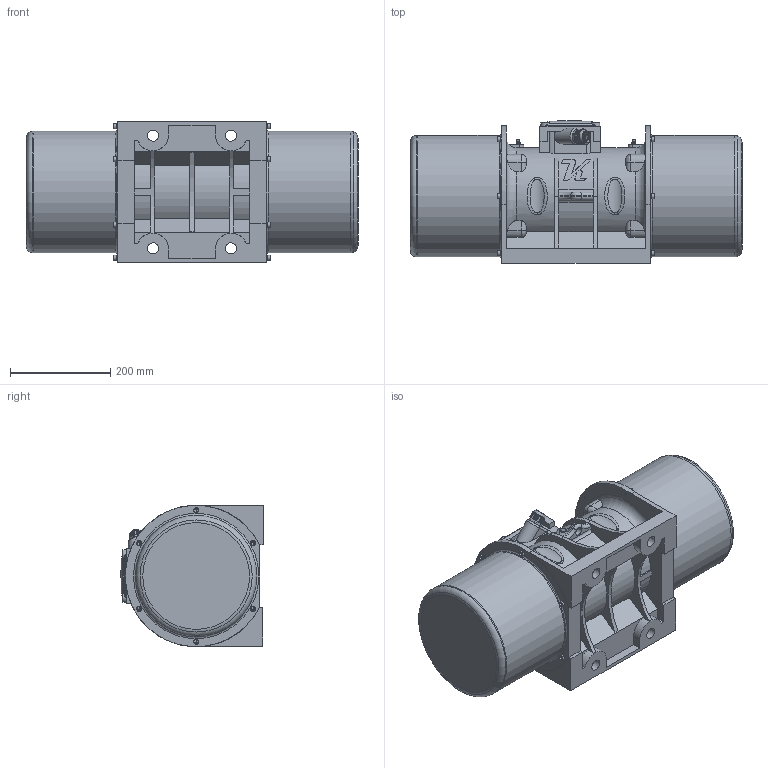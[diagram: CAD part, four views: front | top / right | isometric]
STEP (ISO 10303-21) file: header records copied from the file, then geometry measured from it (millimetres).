
FILE_DESCRIPTION(/* description */ (''),/* implementation_level */ '2;1');
FILE_NAME(/* name */ '',/* time_stamp */ '2026-09-02T09:55:13+03:00',/* author */ ('PC'),/* organization */ (''),/* preprocessor_version */ 'ST-DEVELOPER v20.1',/* originating_system */ 'Autodesk Inventor 2026',/* authorisation */ '');
FILE_SCHEMA (('AUTOMOTIVE_DESIGN { 1 0 10303 214 3 1 1 }'));
Products named in the file (1): 6 NO 1000 DEVİR
Bounding box: 662 x 284.47 x 281.65 mm (x, y, z)
Volume: 28371022.9 mm3; surface area: 912650 mm2
Topology: 1 solids, 40 shells, 1586 faces, 4292 edges, 2821 vertices
Faces by surface type: plane 1078, cylinder 230, cone 131, bspline 83, torus 62, sphere 2
Full cylindrical faces by diameter (mm): 3 x2, 4.5 x1, 4.917 x11, 5 x2, 6 x12, 6.4 x12, 6.8 x12, 8.376 x8, 10 x16, 10.5 x4, 14 x1, 15 x1, 16 x2, 20 x2, 22 x5, 42 x4, 241.693 x1, 242 x2
Entity records: 58751 total; most frequent: CARTESIAN_POINT 18422, ORIENTED_EDGE 8520, DIRECTION 7445, EDGE_CURVE 4260, VERTEX_POINT 2821, LINE 2751, VECTOR 2751, AXIS2_PLACEMENT_3D 2347
